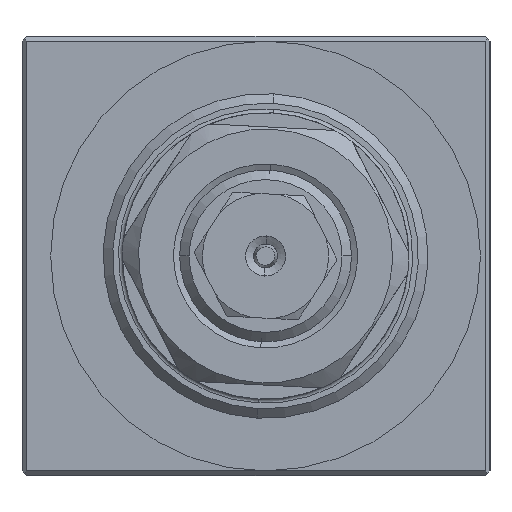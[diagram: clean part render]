
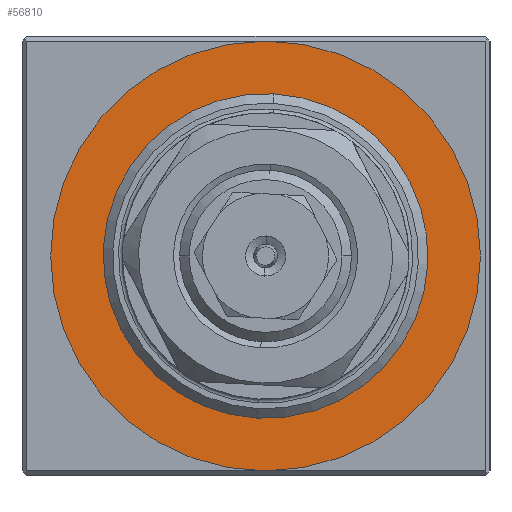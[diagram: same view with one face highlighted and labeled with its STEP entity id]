
A CAD part, left-side view. The second image highlights one B-rep face of the part: STEP entity #56810.
In plain terms, the highlighted planar face has unit normal (-1, 0, 0).
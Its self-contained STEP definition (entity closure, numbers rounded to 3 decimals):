
#13444 = CIRCLE ( 'NONE', #22679, 16.35 ) ;
#13448 = CIRCLE ( 'NONE', #22683, 22.5 ) ;
#13457 = CIRCLE ( 'NONE', #22698, 22.5 ) ;
#13458 = CIRCLE ( 'NONE', #22699, 16.35 ) ;
#19065 = CARTESIAN_POINT ( 'NONE',  ( -39., -0.5, -16.35 ) ) ;
#19066 = CARTESIAN_POINT ( 'NONE',  ( -39., -0.5, 16.35 ) ) ;
#19073 = CARTESIAN_POINT ( 'NONE',  ( -39., -23., 0. ) ) ;
#19074 = CARTESIAN_POINT ( 'NONE',  ( -39., 22., 0. ) ) ;
#22246 = FACE_BOUND ( 'NONE', #46017, .T. ) ;
#22248 = FACE_OUTER_BOUND ( 'NONE', #46016, .T. ) ;
#22253 = AXIS2_PLACEMENT_3D ( 'NONE', #24689, #24690, #24691 ) ;
#22679 = AXIS2_PLACEMENT_3D ( 'NONE', #25390, #25391, #25392 ) ;
#22683 = AXIS2_PLACEMENT_3D ( 'NONE', #25414, #25415, #25416 ) ;
#22698 = AXIS2_PLACEMENT_3D ( 'NONE', #25450, #25451, #25452 ) ;
#22699 = AXIS2_PLACEMENT_3D ( 'NONE', #25453, #25454, #25455 ) ;
#24688 = PLANE ( 'NONE',  #22253 ) ;
#24689 = CARTESIAN_POINT ( 'NONE',  ( -39., -0.5, -22.5 ) ) ;
#24690 = DIRECTION ( 'NONE',  ( 1., 0., 0. ) ) ;
#24691 = DIRECTION ( 'NONE',  ( 0., -1., 0. ) ) ;
#25390 = CARTESIAN_POINT ( 'NONE',  ( -39., -0.5, 0. ) ) ;
#25391 = DIRECTION ( 'NONE',  ( -1., 0., 0. ) ) ;
#25392 = DIRECTION ( 'NONE',  ( 0., 0., 1. ) ) ;
#25414 = CARTESIAN_POINT ( 'NONE',  ( -39., -0.5, 0. ) ) ;
#25415 = DIRECTION ( 'NONE',  ( -1., 0., 0. ) ) ;
#25416 = DIRECTION ( 'NONE',  ( 0., 1., 0. ) ) ;
#25450 = CARTESIAN_POINT ( 'NONE',  ( -39., -0.5, 0. ) ) ;
#25451 = DIRECTION ( 'NONE',  ( -1., 0., 0. ) ) ;
#25452 = DIRECTION ( 'NONE',  ( 0., 1., 0. ) ) ;
#25453 = CARTESIAN_POINT ( 'NONE',  ( -39., -0.5, 0. ) ) ;
#25454 = DIRECTION ( 'NONE',  ( -1., 0., 0. ) ) ;
#25455 = DIRECTION ( 'NONE',  ( 0., 0., 1. ) ) ;
#46016 = EDGE_LOOP ( 'NONE', ( #56323, #56327 ) ) ;
#46017 = EDGE_LOOP ( 'NONE', ( #56328, #56330 ) ) ;
#52968 = VERTEX_POINT ( 'NONE', #19065 ) ;
#52969 = VERTEX_POINT ( 'NONE', #19066 ) ;
#52979 = VERTEX_POINT ( 'NONE', #19073 ) ;
#52980 = VERTEX_POINT ( 'NONE', #19074 ) ;
#56323 = ORIENTED_EDGE ( 'NONE', *, *, #57015, .T. ) ;
#56327 = ORIENTED_EDGE ( 'NONE', *, *, #57027, .T. ) ;
#56328 = ORIENTED_EDGE ( 'NONE', *, *, #57028, .F. ) ;
#56330 = ORIENTED_EDGE ( 'NONE', *, *, #57007, .F. ) ;
#56810 = ADVANCED_FACE ( 'NONE', ( #22248, #22246 ), #24688, .F. ) ;
#57007 = EDGE_CURVE ( 'NONE', #52968, #52969, #13444, .T. ) ;
#57015 = EDGE_CURVE ( 'NONE', #52980, #52979, #13448, .T. ) ;
#57027 = EDGE_CURVE ( 'NONE', #52979, #52980, #13457, .T. ) ;
#57028 = EDGE_CURVE ( 'NONE', #52969, #52968, #13458, .T. ) ;
